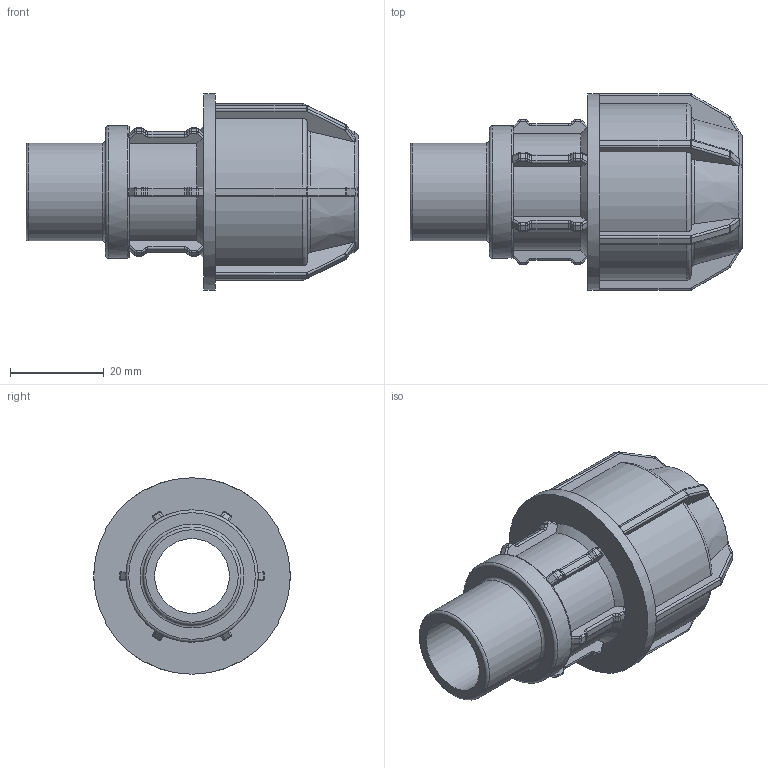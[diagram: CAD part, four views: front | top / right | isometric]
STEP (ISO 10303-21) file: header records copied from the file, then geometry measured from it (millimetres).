
FILE_DESCRIPTION(/* description */ ('PLASSON L.14 MALE ADAPTOR (SILVER) 20-1/2'''''),/* implementation_level */ '2;1');
FILE_NAME(/* name */ 'C:\Dropbox\KIMPROJECTS-Inventor\99-16-3568-Processing\Silver+MF ISRAEL\140200\140200020005.ipt.stp',/* time_stamp */ '2018-04-09T13:02:29+03:00',/* author */ ('KIM'),/* organization */ (''),/* preprocessor_version */ 'ST-DEVELOPER v15.6',/* originating_system */ 'Autodesk Inventor 2015',/* authorisation */ '');
FILE_SCHEMA (('AUTOMOTIVE_DESIGN { 1 0 10303 214 3 1 1 }'));
Length unit declared in the file: millimetre
Products named in the file (1): 140200020005
Bounding box: 71 x 42 x 42 mm (x, y, z)
Volume: 30880.5 mm3; surface area: 14146.4 mm2
Topology: 1 solids, 1 shells, 472 faces, 1166 edges, 691 vertices
Faces by surface type: cylinder 186, plane 159, bspline 72, torus 42, cone 13
Full cylindrical faces by diameter (mm): 16 x1, 20 x2, 20.955 x1, 28.289 x1, 42 x1
Entity records: 14490 total; most frequent: CARTESIAN_POINT 3774, DIRECTION 2310, ORIENTED_EDGE 2252, EDGE_CURVE 1126, AXIS2_PLACEMENT_3D 930, VERTEX_POINT 676, CIRCLE 508, EDGE_LOOP 488
